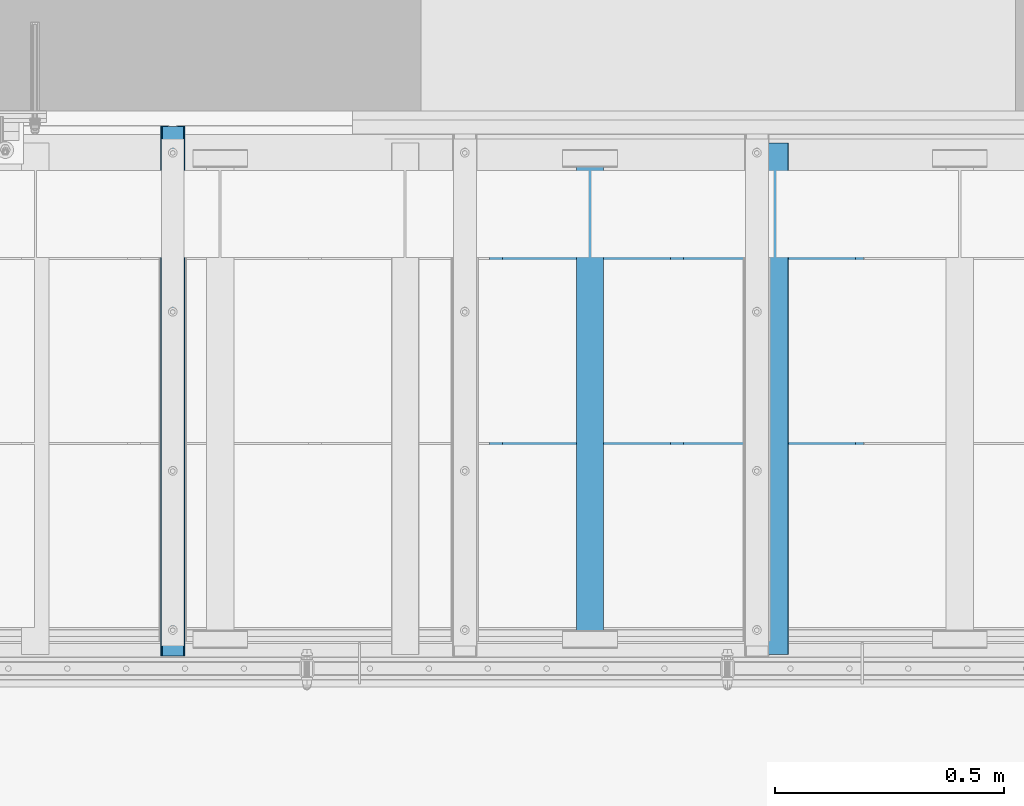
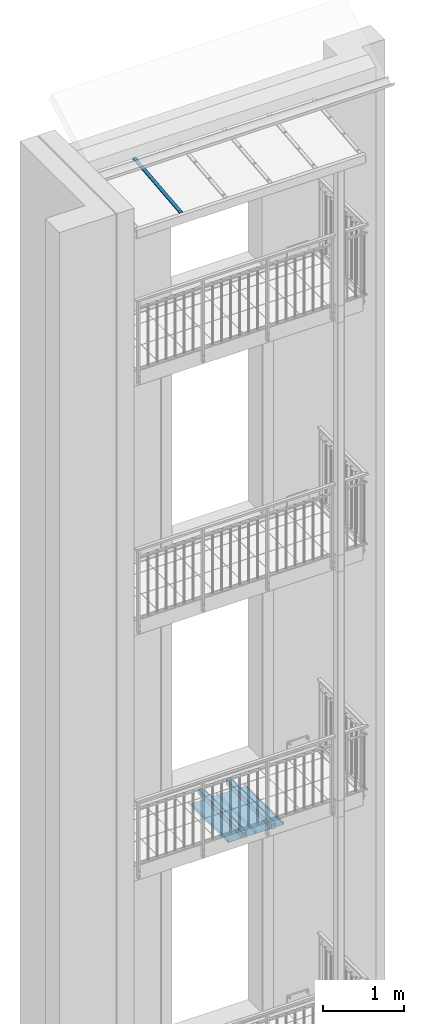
# One storey, part 39 of 162: 4 beams, 1 member, 4 openings.
"""IFC2X3 building model written with IfcOpenShell, lengths in millimetres."""

from ifc_helpers import new_model, entity, si_unit, converted_unit, point, frame, frame_2d, origin, origin_with_axes, origin_2d, origin_2d_with_axis, place, context, project, spatial, polyline, circle_curve, line_curve, trimmed, segment, composite_curve, hollow_rectangle, circle, outline, extrude, material, element, save


model = new_model("IFC2X3")

# Units and contexts
model_context = context("Model", 3, precision=1e-09, world=origin_with_axes())
ifc_project = project(units=[si_unit("LENGTHUNIT", "METRE", prefix="MILLI"), si_unit("AREAUNIT", "SQUARE_METRE"), si_unit("VOLUMEUNIT", "CUBIC_METRE"), converted_unit("PLANEANGLEUNIT", "DEGREE", entity("IfcPlaneAngleMeasure", 0.01745329), si_unit("PLANEANGLEUNIT", "RADIAN"), dimensions=[0, 0, 0, 0, 0, 0, 0])], contexts=[model_context])

# Site, building, storey
site_placement = place(None, origin_with_axes())
site = spatial("IfcSite", under=ifc_project, at=site_placement, Name="Hermannstra?e 1a, 60318 Frankfurt", CompositionType="ELEMENT")
building_placement = place(site_placement, origin_with_axes())
building = spatial("IfcBuilding", under=site, at=building_placement, Name="Struktur 1", CompositionType="ELEMENT")
storey_placement = place(building_placement, origin_with_axes())
storey = spatial("IfcBuildingStorey", under=building, at=storey_placement, Name="Default Storey", CompositionType="ELEMENT", Elevation=0.0)

# Beams
ifc_material_1 = material(Name="S235JR")
beam_1_placement = place(None, frame((4547.05936482, 1546.109373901, 7685.0), z_axis=(0.0, 1.0, 0.0), x_axis=(-1.0, 0.0, 0.0)))
element("IfcBeam", 1, at=beam_1_placement, inside=storey, material=ifc_material_1, Name="-", ObjectType="-", context=model_context, shape_type="SweptSolid", body=[
    extrude(hollow_rectangle(XDim=60.0, YDim=80.0, WallThickness=4.0, InnerFilletRadius=4.0, OuterFilletRadius=8.0, at=origin_2d()), origin(), (0.0, 0.0, 1.0), 1119.0),
])
beam_2_placement = place(None, frame((4142.55936482, 1559.609373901, 7685.0), z_axis=(0.0, 1.0, 0.0), x_axis=(-1.0, 0.0, 0.0)))
element("IfcBeam", 2, at=beam_2_placement, inside=storey, material=ifc_material_1, Name="-", ObjectType="-", context=model_context, shape_type="SweptSolid", body=[
    extrude(hollow_rectangle(XDim=60.0, YDim=80.0, WallThickness=4.0, InnerFilletRadius=4.0, OuterFilletRadius=8.0, at=origin_2d()), origin(), (0.0, 0.0, 1.0), 1092.0),
])
ifc_material_2 = material(Name="Alu")
for number, where, z_axis, x_axis in (
    (3, (4344.80936482, 1625.609373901, 7595.0), (0.0, -1.0, 0.0), (1.0, 0.0, 0.0)),
    (4, (4740.80936482, 1625.609373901, 7595.0), (0.0, -1.0, 0.0), (1.0, 0.0, 0.0)),
):
    element("IfcBeam", number, at=place(None, frame(where, z_axis=z_axis, x_axis=x_axis)), inside=storey, material=ifc_material_2, Name="-", ObjectType="-", context=model_context, shape_type="SweptSolid", body=[
        extrude(outline(polyline([(-421.449159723, 31.122617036), (-396.0, 34.699263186), (-396.0, 0.0), (0.0, 0.0), (0.0, 34.0), (-17.824825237, 31.494884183), (-17.546479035, 29.514348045), (-2.0, 31.699263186), (-2.0, 2.0), (-394.0, 2.0), (-394.0, 37.0), (-421.727505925, 33.103153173), (-421.449159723, 31.122617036)])), origin(), (0.0, 0.0, -1.0), 960.0),
    ])

# Member, openings
member_placement = place(None, frame((3229.80936482, 1543.575957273, 17399.432480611), z_axis=(0.0, -0.994521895, -0.104528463), x_axis=(1.0, 0.0, 0.0)))
member = element("IfcMember", 5, at=member_placement, inside=storey, material=ifc_material_2, Name="Girder", ObjectType="Girder", context=model_context, shape_type="SweptSolid", body=[
    extrude(outline(composite_curve([segment(trimmed(line_curve((10.75, -4.5), (1.0, 0.0), 0.5), [point((10.75, -4.5))], [point((11.25, -4.5))], True, "CARTESIAN"), True, "CONTINUOUS"), segment(trimmed(line_curve((11.25, -4.5), (0.0, 1.0), 1.0), [point((11.25, -4.5))], [point((11.25, -3.5))], True, "CARTESIAN"), True, "CONTINUOUS"), segment(trimmed(line_curve((11.25, -3.5), (1.0, 0.0), 1.0), [point((11.25, -3.5))], [point((12.25, -3.5))], True, "CARTESIAN"), True, "CONTINUOUS"), segment(trimmed(line_curve((12.25, -3.5), (0.0, -1.0), 1.0), [point((12.25, -3.5))], [point((12.25, -4.5))], True, "CARTESIAN"), True, "CONTINUOUS"), segment(trimmed(line_curve((12.25, -4.5), (1.0, 0.0), 1.0), [point((12.25, -4.5))], [point((13.25, -4.5))], True, "CARTESIAN"), True, "CONTINUOUS"), segment(trimmed(line_curve((13.25, -4.5), (0.0, 1.0), 1.0), [point((13.25, -4.5))], [point((13.25, -3.5))], True, "CARTESIAN"), True, "CONTINUOUS"), segment(trimmed(line_curve((13.25, -3.5), (1.0, 0.0), 1.0), [point((13.25, -3.5))], [point((14.25, -3.5))], True, "CARTESIAN"), True, "CONTINUOUS"), segment(trimmed(line_curve((14.25, -3.5), (0.0, -1.0), 1.0), [point((14.25, -3.5))], [point((14.25, -4.5))], True, "CARTESIAN"), True, "CONTINUOUS"), segment(trimmed(line_curve((14.25, -4.5), (1.0, 0.0), 1.0), [point((14.25, -4.5))], [point((15.25, -4.5))], True, "CARTESIAN"), True, "CONTINUOUS"), segment(trimmed(line_curve((15.25, -4.5), (0.0, 1.0), 1.0), [point((15.25, -4.5))], [point((15.25, -3.5))], True, "CARTESIAN"), True, "CONTINUOUS"), segment(trimmed(line_curve((15.25, -3.5), (1.0, 0.0), 1.0), [point((15.25, -3.5))], [point((16.25, -3.5))], True, "CARTESIAN"), True, "CONTINUOUS"), segment(trimmed(line_curve((16.25, -3.5), (0.0, -1.0), 1.0), [point((16.25, -3.5))], [point((16.25, -4.5))], True, "CARTESIAN"), True, "CONTINUOUS"), segment(trimmed(line_curve((16.25, -4.5), (1.0, 0.0), 1.0), [point((16.25, -4.5))], [point((17.25, -4.5))], True, "CARTESIAN"), True, "CONTINUOUS"), segment(trimmed(line_curve((17.25, -4.5), (0.0, 1.0), 1.0), [point((17.25, -4.5))], [point((17.25, -3.5))], True, "CARTESIAN"), True, "CONTINUOUS"), segment(trimmed(line_curve((17.25, -3.5), (1.0, 0.0), 1.0), [point((17.25, -3.5))], [point((18.25, -3.5))], True, "CARTESIAN"), True, "CONTINUOUS"), segment(trimmed(line_curve((18.25, -3.5), (0.0, -1.0), 1.0), [point((18.25, -3.5))], [point((18.25, -4.5))], True, "CARTESIAN"), True, "CONTINUOUS"), segment(trimmed(line_curve((18.25, -4.5), (1.0, 0.0), 1.0), [point((18.25, -4.5))], [point((19.25, -4.5))], True, "CARTESIAN"), True, "CONTINUOUS"), segment(trimmed(line_curve((19.25, -4.5), (0.0, 1.0), 1.0), [point((19.25, -4.5))], [point((19.25, -3.5))], True, "CARTESIAN"), True, "CONTINUOUS"), segment(trimmed(line_curve((19.25, -3.5), (1.0, 0.0), 1.0), [point((19.25, -3.5))], [point((20.25, -3.5))], True, "CARTESIAN"), True, "CONTINUOUS"), segment(trimmed(line_curve((20.25, -3.5), (0.0, -1.0), 1.0), [point((20.25, -3.5))], [point((20.25, -4.5))], True, "CARTESIAN"), True, "CONTINUOUS"), segment(trimmed(line_curve((20.25, -4.5), (1.0, 0.0), 1.0), [point((20.25, -4.5))], [point((21.25, -4.5))], True, "CARTESIAN"), True, "CONTINUOUS"), segment(trimmed(line_curve((21.25, -4.5), (0.0, 1.0), 1.0), [point((21.25, -4.5))], [point((21.25, -3.5))], True, "CARTESIAN"), True, "CONTINUOUS"), segment(trimmed(line_curve((21.25, -3.5), (1.0, 0.0), 1.0), [point((21.25, -3.5))], [point((22.25, -3.5))], True, "CARTESIAN"), True, "CONTINUOUS"), segment(trimmed(line_curve((22.25, -3.5), (0.0, -1.0), 1.0), [point((22.25, -3.5))], [point((22.25, -4.5))], True, "CARTESIAN"), True, "CONTINUOUS"), segment(trimmed(line_curve((22.25, -4.5), (1.0, 0.0), 1.0), [point((22.25, -4.5))], [point((23.25, -4.5))], True, "CARTESIAN"), True, "CONTINUOUS"), segment(trimmed(line_curve((23.25, -4.5), (0.0, 1.0), 1.0), [point((23.25, -4.5))], [point((23.25, -3.5))], True, "CARTESIAN"), True, "CONTINUOUS"), segment(trimmed(line_curve((23.25, -3.5), (1.0, 0.0), 1.0), [point((23.25, -3.5))], [point((24.25, -3.5))], True, "CARTESIAN"), True, "CONTINUOUS"), segment(trimmed(line_curve((24.25, -3.5), (0.0, -1.0), 1.0), [point((24.25, -3.5))], [point((24.25, -4.5))], True, "CARTESIAN"), True, "CONTINUOUS"), segment(trimmed(line_curve((24.25, -4.5), (1.0, 0.0), 1.0), [point((24.25, -4.5))], [point((25.25, -4.5))], True, "CARTESIAN"), True, "CONTINUOUS"), segment(trimmed(line_curve((25.25, -4.5), (0.0, 1.0), 1.0), [point((25.25, -4.5))], [point((25.25, -3.5))], True, "CARTESIAN"), True, "CONTINUOUS"), segment(trimmed(line_curve((25.25, -3.5), (1.0, 0.0), 1.0), [point((25.25, -3.5))], [point((26.25, -3.5))], True, "CARTESIAN"), True, "CONTINUOUS"), segment(trimmed(line_curve((26.25, -3.5), (0.0, -1.0), 1.0), [point((26.25, -3.5))], [point((26.25, -4.5))], True, "CARTESIAN"), True, "CONTINUOUS"), segment(trimmed(line_curve((26.25, -4.5), (1.0, 0.0), 0.5), [point((26.25, -4.5))], [point((26.75, -4.5))], True, "CARTESIAN"), True, "CONTINUOUS"), segment(trimmed(line_curve((26.75, -4.5), (0.0, 1.0), 4.0), [point((26.75, -4.5))], [point((26.75, -0.5))], True, "CARTESIAN"), True, "CONTINUOUS"), segment(trimmed(line_curve((26.75, -0.5), (-1.0, 0.0), 1.75), [point((26.75, -0.5))], [point((25.0, -0.5))], True, "CARTESIAN"), True, "CONTINUOUS"), segment(trimmed(line_curve((25.0, -0.5), (0.0, 1.0), 1.5), [point((25.0, -0.5))], [point((25.0, 1.0))], True, "CARTESIAN"), True, "CONTINUOUS"), segment(trimmed(circle_curve(frame_2d((21.499999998, 0.999999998), x_axis=(1.0, 0.0)), 3.500000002), [point((25.0, 1.0))], [point((21.5, 4.5))], True, "CARTESIAN"), True, "CONTINUOUS"), segment(trimmed(line_curve((21.5, 4.5), (-1.0, 0.0), 43.0), [point((21.5, 4.5))], [point((-21.5, 4.5))], True, "CARTESIAN"), True, "CONTINUOUS"), segment(trimmed(circle_curve(frame_2d((-21.499999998, 0.999999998), x_axis=(1.0, 0.0)), 3.500000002), [point((-21.5, 4.5))], [point((-25.0, 1.0))], True, "CARTESIAN"), True, "CONTINUOUS"), segment(trimmed(line_curve((-25.0, 1.0), (0.0, -1.0), 1.5), [point((-25.0, 1.0))], [point((-25.0, -0.5))], True, "CARTESIAN"), True, "CONTINUOUS"), segment(trimmed(line_curve((-25.0, -0.5), (-1.0, 0.0), 1.75), [point((-25.0, -0.5))], [point((-26.75, -0.5))], True, "CARTESIAN"), True, "CONTINUOUS"), segment(trimmed(line_curve((-26.75, -0.5), (0.0, -1.0), 4.0), [point((-26.75, -0.5))], [point((-26.75, -4.5))], True, "CARTESIAN"), True, "CONTINUOUS"), segment(trimmed(line_curve((-26.75, -4.5), (1.0, 0.0), 0.5), [point((-26.75, -4.5))], [point((-26.25, -4.5))], True, "CARTESIAN"), True, "CONTINUOUS"), segment(trimmed(line_curve((-26.25, -4.5), (0.0, 1.0), 1.0), [point((-26.25, -4.5))], [point((-26.25, -3.5))], True, "CARTESIAN"), True, "CONTINUOUS"), segment(trimmed(line_curve((-26.25, -3.5), (1.0, 0.0), 1.0), [point((-26.25, -3.5))], [point((-25.25, -3.5))], True, "CARTESIAN"), True, "CONTINUOUS"), segment(trimmed(line_curve((-25.25, -3.5), (0.0, -1.0), 1.0), [point((-25.25, -3.5))], [point((-25.25, -4.5))], True, "CARTESIAN"), True, "CONTINUOUS"), segment(trimmed(line_curve((-25.25, -4.5), (1.0, 0.0), 1.0), [point((-25.25, -4.5))], [point((-24.25, -4.5))], True, "CARTESIAN"), True, "CONTINUOUS"), segment(trimmed(line_curve((-24.25, -4.5), (0.0, 1.0), 1.0), [point((-24.25, -4.5))], [point((-24.25, -3.5))], True, "CARTESIAN"), True, "CONTINUOUS"), segment(trimmed(line_curve((-24.25, -3.5), (1.0, 0.0), 1.0), [point((-24.25, -3.5))], [point((-23.25, -3.5))], True, "CARTESIAN"), True, "CONTINUOUS"), segment(trimmed(line_curve((-23.25, -3.5), (0.0, -1.0), 1.0), [point((-23.25, -3.5))], [point((-23.25, -4.5))], True, "CARTESIAN"), True, "CONTINUOUS"), segment(trimmed(line_curve((-23.25, -4.5), (1.0, 0.0), 1.0), [point((-23.25, -4.5))], [point((-22.25, -4.5))], True, "CARTESIAN"), True, "CONTINUOUS"), segment(trimmed(line_curve((-22.25, -4.5), (0.0, 1.0), 1.0), [point((-22.25, -4.5))], [point((-22.25, -3.5))], True, "CARTESIAN"), True, "CONTINUOUS"), segment(trimmed(line_curve((-22.25, -3.5), (1.0, 0.0), 1.0), [point((-22.25, -3.5))], [point((-21.25, -3.5))], True, "CARTESIAN"), True, "CONTINUOUS"), segment(trimmed(line_curve((-21.25, -3.5), (0.0, -1.0), 1.0), [point((-21.25, -3.5))], [point((-21.25, -4.5))], True, "CARTESIAN"), True, "CONTINUOUS"), segment(trimmed(line_curve((-21.25, -4.5), (1.0, 0.0), 1.0), [point((-21.25, -4.5))], [point((-20.25, -4.5))], True, "CARTESIAN"), True, "CONTINUOUS"), segment(trimmed(line_curve((-20.25, -4.5), (0.0, 1.0), 1.0), [point((-20.25, -4.5))], [point((-20.25, -3.5))], True, "CARTESIAN"), True, "CONTINUOUS"), segment(trimmed(line_curve((-20.25, -3.5), (1.0, 0.0), 1.0), [point((-20.25, -3.5))], [point((-19.25, -3.5))], True, "CARTESIAN"), True, "CONTINUOUS"), segment(trimmed(line_curve((-19.25, -3.5), (0.0, -1.0), 1.0), [point((-19.25, -3.5))], [point((-19.25, -4.5))], True, "CARTESIAN"), True, "CONTINUOUS"), segment(trimmed(line_curve((-19.25, -4.5), (1.0, 0.0), 1.0), [point((-19.25, -4.5))], [point((-18.25, -4.5))], True, "CARTESIAN"), True, "CONTINUOUS"), segment(trimmed(line_curve((-18.25, -4.5), (0.0, 1.0), 1.0), [point((-18.25, -4.5))], [point((-18.25, -3.5))], True, "CARTESIAN"), True, "CONTINUOUS"), segment(trimmed(line_curve((-18.25, -3.5), (1.0, 0.0), 1.0), [point((-18.25, -3.5))], [point((-17.25, -3.5))], True, "CARTESIAN"), True, "CONTINUOUS"), segment(trimmed(line_curve((-17.25, -3.5), (0.0, -1.0), 1.0), [point((-17.25, -3.5))], [point((-17.25, -4.5))], True, "CARTESIAN"), True, "CONTINUOUS"), segment(trimmed(line_curve((-17.25, -4.5), (1.0, 0.0), 1.0), [point((-17.25, -4.5))], [point((-16.25, -4.5))], True, "CARTESIAN"), True, "CONTINUOUS"), segment(trimmed(line_curve((-16.25, -4.5), (0.0, 1.0), 1.0), [point((-16.25, -4.5))], [point((-16.25, -3.5))], True, "CARTESIAN"), True, "CONTINUOUS"), segment(trimmed(line_curve((-16.25, -3.5), (1.0, 0.0), 1.0), [point((-16.25, -3.5))], [point((-15.25, -3.5))], True, "CARTESIAN"), True, "CONTINUOUS"), segment(trimmed(line_curve((-15.25, -3.5), (0.0, -1.0), 1.0), [point((-15.25, -3.5))], [point((-15.25, -4.5))], True, "CARTESIAN"), True, "CONTINUOUS"), segment(trimmed(line_curve((-15.25, -4.5), (1.0, 0.0), 1.0), [point((-15.25, -4.5))], [point((-14.25, -4.5))], True, "CARTESIAN"), True, "CONTINUOUS"), segment(trimmed(line_curve((-14.25, -4.5), (0.0, 1.0), 1.0), [point((-14.25, -4.5))], [point((-14.25, -3.5))], True, "CARTESIAN"), True, "CONTINUOUS"), segment(trimmed(line_curve((-14.25, -3.5), (1.0, 0.0), 1.0), [point((-14.25, -3.5))], [point((-13.25, -3.5))], True, "CARTESIAN"), True, "CONTINUOUS"), segment(trimmed(line_curve((-13.25, -3.5), (0.0, -1.0), 1.0), [point((-13.25, -3.5))], [point((-13.25, -4.5))], True, "CARTESIAN"), True, "CONTINUOUS"), segment(trimmed(line_curve((-13.25, -4.5), (1.0, 0.0), 1.0), [point((-13.25, -4.5))], [point((-12.25, -4.5))], True, "CARTESIAN"), True, "CONTINUOUS"), segment(trimmed(line_curve((-12.25, -4.5), (0.0, 1.0), 1.0), [point((-12.25, -4.5))], [point((-12.25, -3.5))], True, "CARTESIAN"), True, "CONTINUOUS"), segment(trimmed(line_curve((-12.25, -3.5), (1.0, 0.0), 1.0), [point((-12.25, -3.5))], [point((-11.25, -3.5))], True, "CARTESIAN"), True, "CONTINUOUS"), segment(trimmed(line_curve((-11.25, -3.5), (0.0, -1.0), 1.0), [point((-11.25, -3.5))], [point((-11.25, -4.5))], True, "CARTESIAN"), True, "CONTINUOUS"), segment(trimmed(line_curve((-11.25, -4.5), (1.0, 0.0), 0.5), [point((-11.25, -4.5))], [point((-10.75, -4.5))], True, "CARTESIAN"), True, "CONTINUOUS"), segment(trimmed(line_curve((-10.75, -4.5), (0.0, 1.0), 4.0), [point((-10.75, -4.5))], [point((-10.75, -0.5))], True, "CARTESIAN"), True, "CONTINUOUS"), segment(trimmed(line_curve((-10.75, -0.5), (-1.0, 0.0), 1.75), [point((-10.75, -0.5))], [point((-12.5, -0.5))], True, "CARTESIAN"), True, "CONTINUOUS"), segment(trimmed(line_curve((-12.5, -0.5), (0.0, 1.0), 3.0), [point((-12.5, -0.5))], [point((-12.5, 2.5))], True, "CARTESIAN"), True, "CONTINUOUS"), segment(trimmed(line_curve((-12.5, 2.5), (1.0, 0.0), 25.0), [point((-12.5, 2.5))], [point((12.5, 2.5))], True, "CARTESIAN"), True, "CONTINUOUS"), segment(trimmed(line_curve((12.5, 2.5), (0.0, -1.0), 3.0), [point((12.5, 2.5))], [point((12.5, -0.5))], True, "CARTESIAN"), True, "CONTINUOUS"), segment(trimmed(line_curve((12.5, -0.5), (-1.0, 0.0), 1.75), [point((12.5, -0.5))], [point((10.75, -0.5))], True, "CARTESIAN"), True, "CONTINUOUS"), segment(trimmed(line_curve((10.75, -0.5), (0.0, -1.0), 4.0), [point((10.75, -0.5))], [point((10.75, -4.5))], True, "CARTESIAN"), True, "CONTINUOUS")], self_intersect=False), holes=[composite_curve([segment(trimmed(line_curve((16.25, -0.5), (1.0, 0.0), 5.0), [point((16.25, -0.5))], [point((21.25, -0.5))], True, "CARTESIAN"), True, "CONTINUOUS"), segment(trimmed(line_curve((21.25, -0.5), (0.0, 1.0), 1.5), [point((21.25, -0.5))], [point((21.25, 1.0))], True, "CARTESIAN"), True, "CONTINUOUS"), segment(trimmed(line_curve((21.25, 1.0), (1.0, 0.0), 2.25), [point((21.25, 1.0))], [point((23.5, 1.0))], True, "CARTESIAN"), True, "CONTINUOUS"), segment(trimmed(circle_curve(frame_2d((21.499999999, 0.999999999), x_axis=(1.0, 0.0)), 2.000000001), [point((23.5, 1.0))], [point((21.5, 3.0))], True, "CARTESIAN"), True, "CONTINUOUS"), segment(trimmed(line_curve((21.5, 3.0), (-1.0, 0.0), 7.5), [point((21.5, 3.0))], [point((14.0, 3.0))], True, "CARTESIAN"), True, "CONTINUOUS"), segment(trimmed(line_curve((14.0, 3.0), (0.0, -1.0), 2.0), [point((14.0, 3.0))], [point((14.0, 1.0))], True, "CARTESIAN"), True, "CONTINUOUS"), segment(trimmed(line_curve((14.0, 1.0), (1.0, 0.0), 2.25), [point((14.0, 1.0))], [point((16.25, 1.0))], True, "CARTESIAN"), True, "CONTINUOUS"), segment(trimmed(line_curve((16.25, 1.0), (0.0, -1.0), 1.5), [point((16.25, 1.0))], [point((16.25, -0.5))], True, "CARTESIAN"), True, "CONTINUOUS")], self_intersect=False), composite_curve([segment(trimmed(line_curve((-16.25, -0.5), (0.0, 1.0), 1.5), [point((-16.25, -0.5))], [point((-16.25, 1.0))], True, "CARTESIAN"), True, "CONTINUOUS"), segment(trimmed(line_curve((-16.25, 1.0), (1.0, 0.0), 2.25), [point((-16.25, 1.0))], [point((-14.0, 1.0))], True, "CARTESIAN"), True, "CONTINUOUS"), segment(trimmed(line_curve((-14.0, 1.0), (0.0, 1.0), 2.0), [point((-14.0, 1.0))], [point((-14.0, 3.0))], True, "CARTESIAN"), True, "CONTINUOUS"), segment(trimmed(line_curve((-14.0, 3.0), (-1.0, 0.0), 7.5), [point((-14.0, 3.0))], [point((-21.5, 3.0))], True, "CARTESIAN"), True, "CONTINUOUS"), segment(trimmed(circle_curve(frame_2d((-21.499999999, 0.999999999), x_axis=(1.0, 0.0)), 2.000000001), [point((-21.5, 3.0))], [point((-23.5, 1.0))], True, "CARTESIAN"), True, "CONTINUOUS"), segment(trimmed(line_curve((-23.5, 1.0), (1.0, 0.0), 2.25), [point((-23.5, 1.0))], [point((-21.25, 1.0))], True, "CARTESIAN"), True, "CONTINUOUS"), segment(trimmed(line_curve((-21.25, 1.0), (0.0, -1.0), 1.5), [point((-21.25, 1.0))], [point((-21.25, -0.5))], True, "CARTESIAN"), True, "CONTINUOUS"), segment(trimmed(line_curve((-21.25, -0.5), (1.0, 0.0), 5.0), [point((-21.25, -0.5))], [point((-16.25, -0.5))], True, "CARTESIAN"), True, "CONTINUOUS")], self_intersect=False)]), origin(), (0.0, 0.0, -1.0), 1164.995580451),
])
opening_1_placement = place(member_placement, frame((2e-09, 2.0, -407.497790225), z_axis=(0.0, 1.0, 0.0), x_axis=(1.0, 0.0, 0.0)))
element("IfcOpeningElement", 6, at=opening_1_placement, cuts=member, ObjectType="Opening", context=model_context, shape_type="SweptSolid", body=[
    extrude(circle(Radius=6.001, at=origin_2d_with_axis()), origin(), (0.0, 0.0, 1.0), 3.0),
])
opening_2_placement = place(member_placement, frame((2e-09, 2.0, -757.497790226), z_axis=(0.0, 1.0, 0.0), x_axis=(1.0, 0.0, 0.0)))
element("IfcOpeningElement", 7, at=opening_2_placement, cuts=member, ObjectType="Opening", context=model_context, shape_type="SweptSolid", body=[
    extrude(circle(Radius=6.001, at=origin_2d_with_axis()), origin(), (0.0, 0.0, 1.0), 3.0),
])
opening_3_placement = place(member_placement, frame((2e-09, 2.0, -1107.497790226), z_axis=(0.0, 1.0, 0.0), x_axis=(1.0, 0.0, 0.0)))
element("IfcOpeningElement", 8, at=opening_3_placement, cuts=member, ObjectType="Opening", context=model_context, shape_type="SweptSolid", body=[
    extrude(circle(Radius=6.001, at=origin_2d_with_axis()), origin(), (0.0, 0.0, 1.0), 3.0),
])
opening_4_placement = place(member_placement, frame((2e-09, 2.0, -57.497790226), z_axis=(0.0, 1.0, 0.0), x_axis=(1.0, 0.0, 0.0)))
element("IfcOpeningElement", 9, at=opening_4_placement, cuts=member, ObjectType="Opening", context=model_context, shape_type="SweptSolid", body=[
    extrude(circle(Radius=6.001, at=origin_2d_with_axis()), origin(), (0.0, 0.0, 1.0), 3.0),
])

save(model, "model.ifc")
